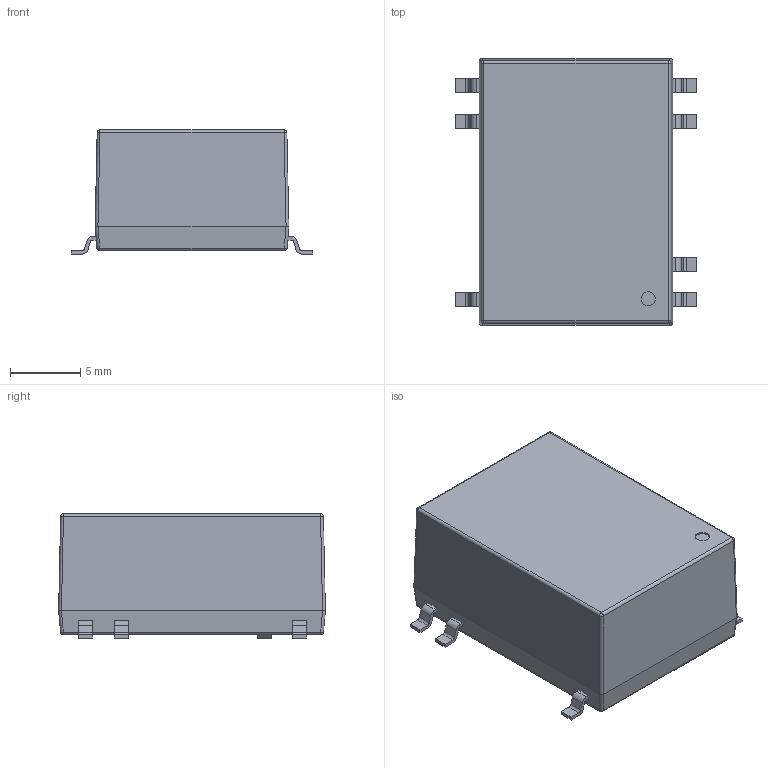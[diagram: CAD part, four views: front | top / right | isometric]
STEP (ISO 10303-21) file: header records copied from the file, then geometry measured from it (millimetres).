
FILE_DESCRIPTION(/* description */ (''),/* implementation_level */ '2;1');
FILE_NAME(/* name */ 'C:\Users\Calliope\Desktop\XP Power 3D Drawings (STEP file) Model listed\ISB01.stp',/* time_stamp */ '2017-11-03T10:28:22+08:00',/* author */ ('Calliope'),/* organization */ (''),/* preprocessor_version */ 'ST-DEVELOPER v15.6',/* originating_system */ 'Autodesk Inventor 2015',/* authorisation */ '');
FILE_SCHEMA (('AUTOMOTIVE_DESIGN { 1 0 10303 214 3 1 1 }'));
Length unit declared in the file: millimetre
Products named in the file (1): ISB01
Bounding box: 17.2 x 19 x 8.85 mm (x, y, z)
Volume: 1050.5 mm3; surface area: 1867.6 mm2
Topology: 1 solids, 1 shells, 187 faces, 469 edges, 290 vertices
Faces by surface type: plane 120, cylinder 55, sphere 12
Full cylindrical faces by diameter (mm): 1 x2, 1.5 x1
Entity records: 5571 total; most frequent: DIRECTION 940, CARTESIAN_POINT 932, ORIENTED_EDGE 908, EDGE_CURVE 454, LINE 344, VECTOR 344, AXIS2_PLACEMENT_3D 298, VERTEX_POINT 290
